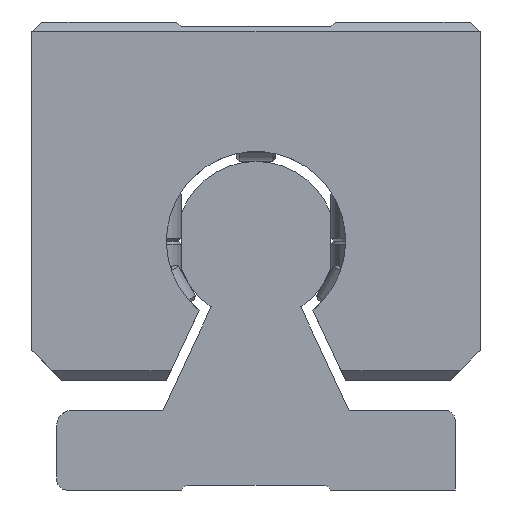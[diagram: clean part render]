
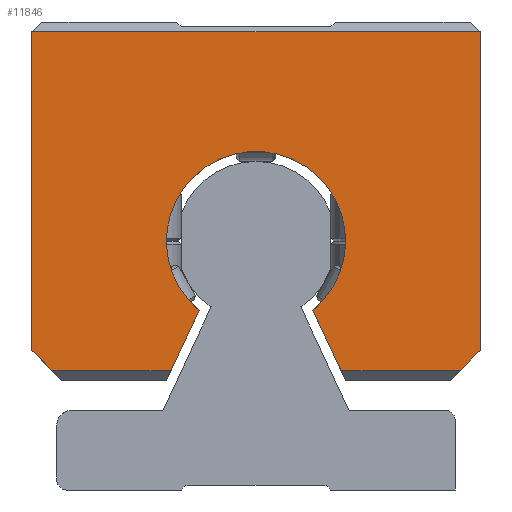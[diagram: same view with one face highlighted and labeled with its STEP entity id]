
A CAD part, left-side view. The second image highlights one B-rep face of the part: STEP entity #11846.
In plain terms, the highlighted planar face has unit normal (-1, 0, 0).
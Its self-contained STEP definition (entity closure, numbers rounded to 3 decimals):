
#10697=CARTESIAN_POINT('',(253.749,-22.5,46.));
#10698=VERTEX_POINT('',#10697);
#10707=CARTESIAN_POINT('',(253.749,-22.5,14.));
#10708=VERTEX_POINT('',#10707);
#10709=CARTESIAN_POINT('',(253.749,-22.5,46.));
#10710=DIRECTION('',(0.0,0.0,-1.0));
#10711=VECTOR('',#10710,32.0);
#10712=LINE('',#10709,#10711);
#10713=EDGE_CURVE('',#10698,#10708,#10712,.T.);
#10806=CARTESIAN_POINT('',(253.749,-5.714,18.047));
#10807=VERTEX_POINT('',#10806);
#10814=CARTESIAN_POINT('',(253.749,5.714,18.047));
#10815=VERTEX_POINT('',#10814);
#10816=CARTESIAN_POINT('',(253.749,0.,25.));
#10817=DIRECTION('',(-1.0,0.0,0.0));
#10818=DIRECTION('',(0.0,-1.0,0.0));
#10819=AXIS2_PLACEMENT_3D('',#10816,#10817,#10818);
#10820=CIRCLE('',#10819,9.0);
#10821=EDGE_CURVE('',#10807,#10815,#10820,.T.);
#11480=CARTESIAN_POINT('',(253.749,22.5,46.));
#11481=VERTEX_POINT('',#11480);
#11488=CARTESIAN_POINT('',(253.749,22.5,46.));
#11489=DIRECTION('',(0.0,-1.0,0.0));
#11490=VECTOR('',#11489,45.0);
#11491=LINE('',#11488,#11490);
#11492=EDGE_CURVE('',#11481,#10698,#11491,.T.);
#11502=CARTESIAN_POINT('',(253.749,20.5,12.));
#11503=VERTEX_POINT('',#11502);
#11520=CARTESIAN_POINT('',(253.749,8.534,12.));
#11521=VERTEX_POINT('',#11520);
#11528=CARTESIAN_POINT('',(253.749,8.534,12.));
#11529=DIRECTION('',(0.0,1.0,0.0));
#11530=VECTOR('',#11529,11.966);
#11531=LINE('',#11528,#11530);
#11532=EDGE_CURVE('',#11521,#11503,#11531,.T.);
#11587=CARTESIAN_POINT('',(253.749,22.5,14.));
#11588=VERTEX_POINT('',#11587);
#11589=CARTESIAN_POINT('',(253.749,20.5,12.));
#11590=DIRECTION('',(0.0,0.707,0.707));
#11591=VECTOR('',#11590,2.828);
#11592=LINE('',#11589,#11591);
#11593=EDGE_CURVE('',#11503,#11588,#11592,.T.);
#11772=CARTESIAN_POINT('',(253.749,-20.5,12.));
#11773=VERTEX_POINT('',#11772);
#11774=CARTESIAN_POINT('',(253.749,-22.5,14.));
#11775=DIRECTION('',(0.0,0.707,-0.707));
#11776=VECTOR('',#11775,2.828);
#11777=LINE('',#11774,#11776);
#11778=EDGE_CURVE('',#10708,#11773,#11777,.T.);
#11796=CARTESIAN_POINT('',(253.749,-8.534,12.));
#11797=VERTEX_POINT('',#11796);
#11798=CARTESIAN_POINT('',(253.749,-20.5,12.));
#11799=DIRECTION('',(0.0,1.0,0.0));
#11800=VECTOR('',#11799,11.966);
#11801=LINE('',#11798,#11800);
#11802=EDGE_CURVE('',#11773,#11797,#11801,.T.);
#11814=CARTESIAN_POINT('',(253.749,-15.25,46.75));
#11815=DIRECTION('',(1.0,0.0,0.0));
#11816=DIRECTION('',(0.0,0.0,-1.0));
#11817=AXIS2_PLACEMENT_3D('',#11814,#11815,#11816);
#11818=PLANE('',#11817);
#11819=ORIENTED_EDGE('',*,*,#11532,.F.);
#11820=CARTESIAN_POINT('',(253.749,5.714,18.047));
#11821=DIRECTION('',(0.0,0.423,-0.906));
#11822=VECTOR('',#11821,6.672);
#11823=LINE('',#11820,#11822);
#11824=EDGE_CURVE('',#10815,#11521,#11823,.T.);
#11825=ORIENTED_EDGE('',*,*,#11824,.F.);
#11826=ORIENTED_EDGE('',*,*,#10821,.F.);
#11827=CARTESIAN_POINT('',(253.749,-8.534,12.));
#11828=DIRECTION('',(0.0,0.423,0.906));
#11829=VECTOR('',#11828,6.672);
#11830=LINE('',#11827,#11829);
#11831=EDGE_CURVE('',#11797,#10807,#11830,.T.);
#11832=ORIENTED_EDGE('',*,*,#11831,.F.);
#11833=ORIENTED_EDGE('',*,*,#11802,.F.);
#11834=ORIENTED_EDGE('',*,*,#11778,.F.);
#11835=ORIENTED_EDGE('',*,*,#10713,.F.);
#11836=ORIENTED_EDGE('',*,*,#11492,.F.);
#11837=CARTESIAN_POINT('',(253.749,22.5,14.));
#11838=DIRECTION('',(0.0,0.0,1.0));
#11839=VECTOR('',#11838,32.0);
#11840=LINE('',#11837,#11839);
#11841=EDGE_CURVE('',#11588,#11481,#11840,.T.);
#11842=ORIENTED_EDGE('',*,*,#11841,.F.);
#11843=ORIENTED_EDGE('',*,*,#11593,.F.);
#11844=EDGE_LOOP('',(#11819,#11825,#11826,#11832,#11833,#11834,#11835,#11836,#11842,#11843));
#11845=FACE_OUTER_BOUND('',#11844,.T.);
#11846=ADVANCED_FACE('',(#11845),#11818,.F.);
